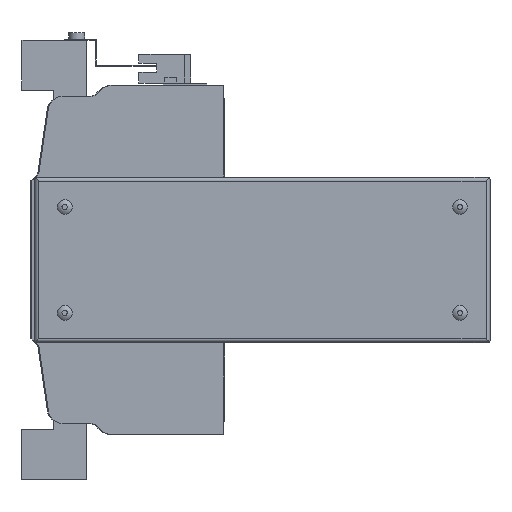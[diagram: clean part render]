
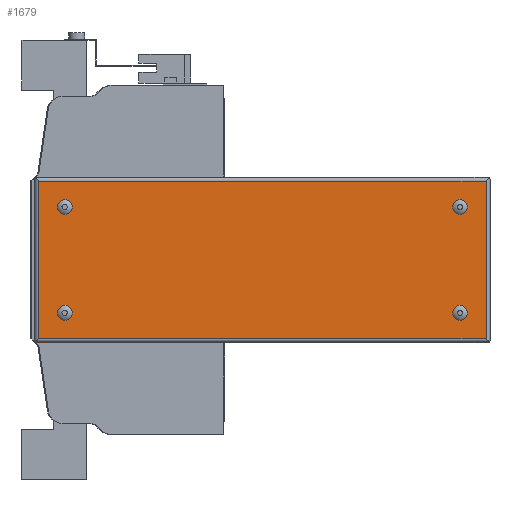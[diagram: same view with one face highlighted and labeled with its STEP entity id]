
A CAD part, left-side view. The second image highlights one B-rep face of the part: STEP entity #1679.
In plain terms, the highlighted planar face has unit normal (-1, 0, 0).
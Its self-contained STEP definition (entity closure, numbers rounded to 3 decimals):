
#1679 = ADVANCED_FACE( '', ( #3426, #3427, #3428, #3429, #3430 ), #3431, .F. );
#3426 = FACE_BOUND( '', #5193, .T. );
#3427 = FACE_BOUND( '', #5194, .T. );
#3428 = FACE_BOUND( '', #5195, .T. );
#3429 = FACE_BOUND( '', #5196, .T. );
#3430 = FACE_OUTER_BOUND( '', #5197, .T. );
#3431 = PLANE( '', #5198 );
#5193 = EDGE_LOOP( '', ( #9757 ) );
#5194 = EDGE_LOOP( '', ( #9758 ) );
#5195 = EDGE_LOOP( '', ( #9759 ) );
#5196 = EDGE_LOOP( '', ( #9760 ) );
#5197 = EDGE_LOOP( '', ( #9761, #9762, #9763, #9764 ) );
#5198 = AXIS2_PLACEMENT_3D( '', #9765, #9766, #9767 );
#9757 = ORIENTED_EDGE( '', *, *, #12052, .F. );
#9758 = ORIENTED_EDGE( '', *, *, #11679, .F. );
#9759 = ORIENTED_EDGE( '', *, *, #10268, .F. );
#9760 = ORIENTED_EDGE( '', *, *, #11336, .F. );
#9761 = ORIENTED_EDGE( '', *, *, #11475, .F. );
#9762 = ORIENTED_EDGE( '', *, *, #11624, .F. );
#9763 = ORIENTED_EDGE( '', *, *, #11818, .T. );
#9764 = ORIENTED_EDGE( '', *, *, #11888, .T. );
#9765 = CARTESIAN_POINT( '', ( -66., -131.95, 40.5 ) );
#9766 = DIRECTION( '', ( 1., 0., 0. ) );
#9767 = DIRECTION( '', ( 0., 0., -1. ) );
#10268 = EDGE_CURVE( '', #12181, #12181, #12182, .F. );
#11336 = EDGE_CURVE( '', #13945, #13945, #13946, .F. );
#11475 = EDGE_CURVE( '', #14135, #14137, #14138, .T. );
#11624 = EDGE_CURVE( '', #14347, #14135, #14349, .T. );
#11679 = EDGE_CURVE( '', #14424, #14424, #14425, .F. );
#11818 = EDGE_CURVE( '', #14347, #14602, #14603, .T. );
#11888 = EDGE_CURVE( '', #14602, #14137, #14692, .T. );
#12052 = EDGE_CURVE( '', #14867, #14867, #14868, .F. );
#12181 = VERTEX_POINT( '', #15021 );
#12182 = CIRCLE( '', #15022, 3.7 );
#13945 = VERTEX_POINT( '', #17490 );
#13946 = CIRCLE( '', #17491, 3.7 );
#14135 = VERTEX_POINT( '', #17764 );
#14137 = VERTEX_POINT( '', #17766 );
#14138 = LINE( '', #17767, #17768 );
#14347 = VERTEX_POINT( '', #18070 );
#14349 = LINE( '', #18072, #18073 );
#14424 = VERTEX_POINT( '', #18176 );
#14425 = CIRCLE( '', #18177, 3.7 );
#14602 = VERTEX_POINT( '', #18424 );
#14603 = LINE( '', #18425, #18426 );
#14692 = LINE( '', #18549, #18550 );
#14867 = VERTEX_POINT( '', #18792 );
#14868 = CIRCLE( '', #18793, 3.7 );
#15021 = CARTESIAN_POINT( '', ( -66., 80.05, 22.8 ) );
#15022 = AXIS2_PLACEMENT_3D( '', #18907, #18908, #18909 );
#17490 = CARTESIAN_POINT( '', ( -66., 80.05, -30.2 ) );
#17491 = AXIS2_PLACEMENT_3D( '', #20084, #20085, #20086 );
#17764 = CARTESIAN_POINT( '', ( -66., 93.05, 39.5 ) );
#17766 = CARTESIAN_POINT( '', ( -66., -130.95, 39.5 ) );
#17767 = CARTESIAN_POINT( '', ( -66., 228., 39.5 ) );
#17768 = VECTOR( '', #20211, 1000. );
#18070 = CARTESIAN_POINT( '', ( -66., 93.05, -39.5 ) );
#18072 = CARTESIAN_POINT( '', ( -66., 93.05, -83. ) );
#18073 = VECTOR( '', #20354, 1000. );
#18176 = CARTESIAN_POINT( '', ( -66., -117.95, -30.2 ) );
#18177 = AXIS2_PLACEMENT_3D( '', #20411, #20412, #20413 );
#18424 = CARTESIAN_POINT( '', ( -66., -130.95, -39.5 ) );
#18425 = CARTESIAN_POINT( '', ( -66., 228., -39.5 ) );
#18426 = VECTOR( '', #20538, 1000. );
#18549 = CARTESIAN_POINT( '', ( -66., -130.95, -83. ) );
#18550 = VECTOR( '', #20613, 1000. );
#18792 = CARTESIAN_POINT( '', ( -66., -117.95, 22.8 ) );
#18793 = AXIS2_PLACEMENT_3D( '', #20726, #20727, #20728 );
#18907 = CARTESIAN_POINT( '', ( -66., 80.05, 26.5 ) );
#18908 = DIRECTION( '', ( 1., 0., 0. ) );
#18909 = DIRECTION( '', ( 0., 0., -1. ) );
#20084 = CARTESIAN_POINT( '', ( -66., 80.05, -26.5 ) );
#20085 = DIRECTION( '', ( 1., 0., 0. ) );
#20086 = DIRECTION( '', ( 0., 0., -1. ) );
#20211 = DIRECTION( '', ( 0., -1., 0. ) );
#20354 = DIRECTION( '', ( 0., 0., 1. ) );
#20411 = CARTESIAN_POINT( '', ( -66., -117.95, -26.5 ) );
#20412 = DIRECTION( '', ( 1., 0., 0. ) );
#20413 = DIRECTION( '', ( 0., 0., -1. ) );
#20538 = DIRECTION( '', ( 0., -1., 0. ) );
#20613 = DIRECTION( '', ( 0., 0., 1. ) );
#20726 = CARTESIAN_POINT( '', ( -66., -117.95, 26.5 ) );
#20727 = DIRECTION( '', ( 1., 0., 0. ) );
#20728 = DIRECTION( '', ( 0., 0., -1. ) );
